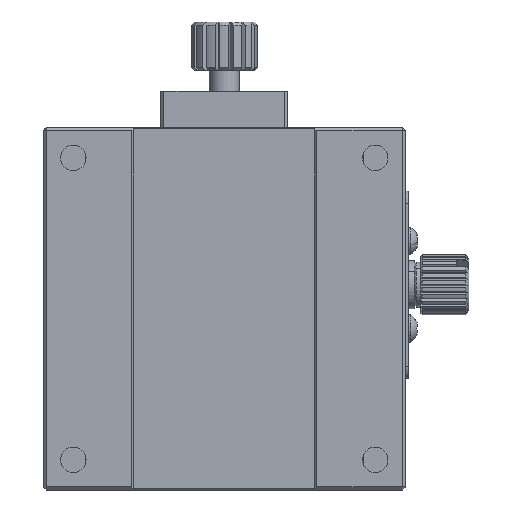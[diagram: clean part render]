
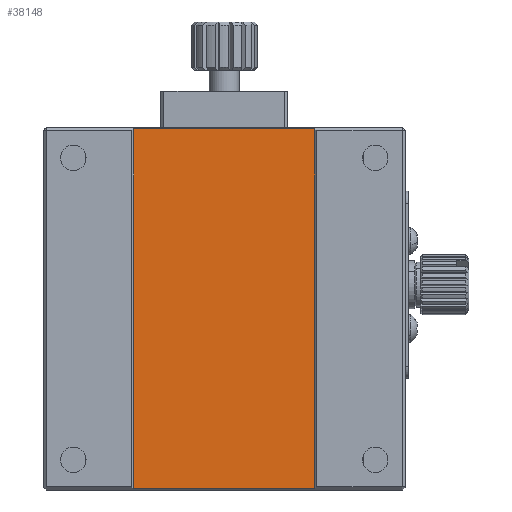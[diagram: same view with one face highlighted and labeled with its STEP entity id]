
A CAD part, front view. The second image highlights one B-rep face of the part: STEP entity #38148.
In plain terms, the highlighted planar face has unit normal (0, -1, 0).
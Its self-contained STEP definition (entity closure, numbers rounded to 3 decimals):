
#479 = CARTESIAN_POINT ( 'NONE',  ( 0., 0.3, 29.8 ) ) ;
#569 = VECTOR ( 'NONE', #17964, 1000. ) ;
#623 = DIRECTION ( 'NONE',  ( -1., 0., 0. ) ) ;
#2613 = ORIENTED_EDGE ( 'NONE', *, *, #21312, .T. ) ;
#2876 = DIRECTION ( 'NONE',  ( 0., 1., 0. ) ) ;
#2935 = FACE_OUTER_BOUND ( 'NONE', #23680, .T. ) ;
#4868 = VECTOR ( 'NONE', #623, 1000. ) ;
#8671 = VERTEX_POINT ( 'NONE', #30165 ) ;
#8935 = CARTESIAN_POINT ( 'NONE',  ( 15., 0.3, -30. ) ) ;
#10988 = CARTESIAN_POINT ( 'NONE',  ( -15., 0.3, 29.8 ) ) ;
#15727 = LINE ( 'NONE', #28734, #30834 ) ;
#15815 = AXIS2_PLACEMENT_3D ( 'NONE', #8935, #2876, #24079 ) ;
#16019 = VERTEX_POINT ( 'NONE', #24011 ) ;
#16914 = ORIENTED_EDGE ( 'NONE', *, *, #20335, .T. ) ;
#16936 = ORIENTED_EDGE ( 'NONE', *, *, #19154, .T. ) ;
#17735 = ORIENTED_EDGE ( 'NONE', *, *, #24410, .F. ) ;
#17964 = DIRECTION ( 'NONE',  ( 0., 0., 1. ) ) ;
#17982 = PLANE ( 'NONE',  #15815 ) ;
#18074 = CARTESIAN_POINT ( 'NONE',  ( 15., 0.3, -30. ) ) ;
#18088 = CARTESIAN_POINT ( 'NONE',  ( -15., 0.3, -30. ) ) ;
#19154 = EDGE_CURVE ( 'NONE', #8671, #28245, #38875, .T. ) ;
#20335 = EDGE_CURVE ( 'NONE', #16019, #8671, #15727, .T. ) ;
#21312 = EDGE_CURVE ( 'NONE', #28245, #35043, #28001, .T. ) ;
#21720 = VECTOR ( 'NONE', #24188, 1000. ) ;
#23680 = EDGE_LOOP ( 'NONE', ( #17735, #16914, #16936, #2613 ) ) ;
#24011 = CARTESIAN_POINT ( 'NONE',  ( -15., 0.3, -29.8 ) ) ;
#24079 = DIRECTION ( 'NONE',  ( -1., 0., 0. ) ) ;
#24188 = DIRECTION ( 'NONE',  ( 0., 0., 1. ) ) ;
#24410 = EDGE_CURVE ( 'NONE', #16019, #35043, #28773, .T. ) ;
#25171 = DIRECTION ( 'NONE',  ( 1., 0., 0. ) ) ;
#28001 = LINE ( 'NONE', #479, #4868 ) ;
#28245 = VERTEX_POINT ( 'NONE', #34429 ) ;
#28734 = CARTESIAN_POINT ( 'NONE',  ( -30., 0.3, -29.8 ) ) ;
#28773 = LINE ( 'NONE', #18088, #21720 ) ;
#30165 = CARTESIAN_POINT ( 'NONE',  ( 15., 0.3, -29.8 ) ) ;
#30834 = VECTOR ( 'NONE', #25171, 1000. ) ;
#34429 = CARTESIAN_POINT ( 'NONE',  ( 15., 0.3, 29.8 ) ) ;
#35043 = VERTEX_POINT ( 'NONE', #10988 ) ;
#38148 = ADVANCED_FACE ( 'NONE', ( #2935 ), #17982, .F. ) ;
#38875 = LINE ( 'NONE', #18074, #569 ) ;
